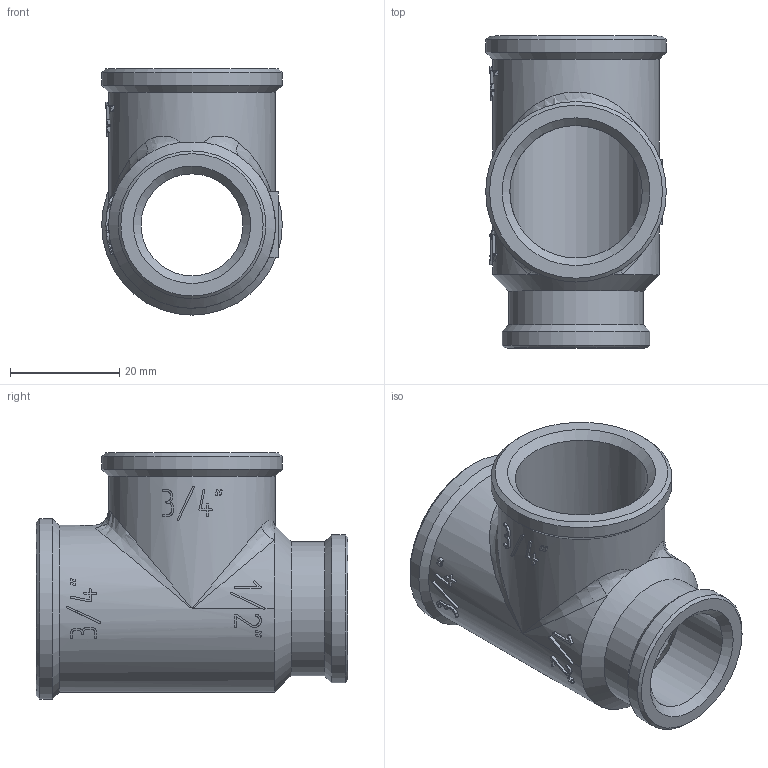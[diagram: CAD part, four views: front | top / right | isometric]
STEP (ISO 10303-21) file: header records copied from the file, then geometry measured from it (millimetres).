
FILE_DESCRIPTION(('STEP AP203'), '1');
FILE_NAME('ÂÐ.752243.015 - VTr.750.RN.050504 - Ôèò. ðåçüá. òðîé', '2024-07-15T10:01:10', ('Boss'), (''), 'C3D Converter', 'C3D Toolkit', '');
FILE_SCHEMA(('CONFIG_CONTROL_DESIGN'));
Length unit declared in the file: millimetre
Products named in the file (1): ВР.752243.015
Bounding box: 33 x 57 x 45 mm (x, y, z)
Volume: 19071.2 mm3; surface area: 12548.3 mm2
Topology: 1 solids, 1 shells, 351 faces, 990 edges, 651 vertices
Faces by surface type: extrusion 196, plane 113, cylinder 26, cone 11, bspline 5
Full cylindrical faces by diameter (mm): 18.632 x1, 24.2 x2, 24.5 x1, 27 x1, 30.5 x2, 33 x2
Entity records: 15576 total; most frequent: CARTESIAN_POINT 7701, ORIENTED_EDGE 1920, DIRECTION 1005, EDGE_CURVE 960, VERTEX_POINT 649, B_SPLINE_CURVE_WITH_KNOTS 604, VECTOR 561, EDGE_LOOP 391
